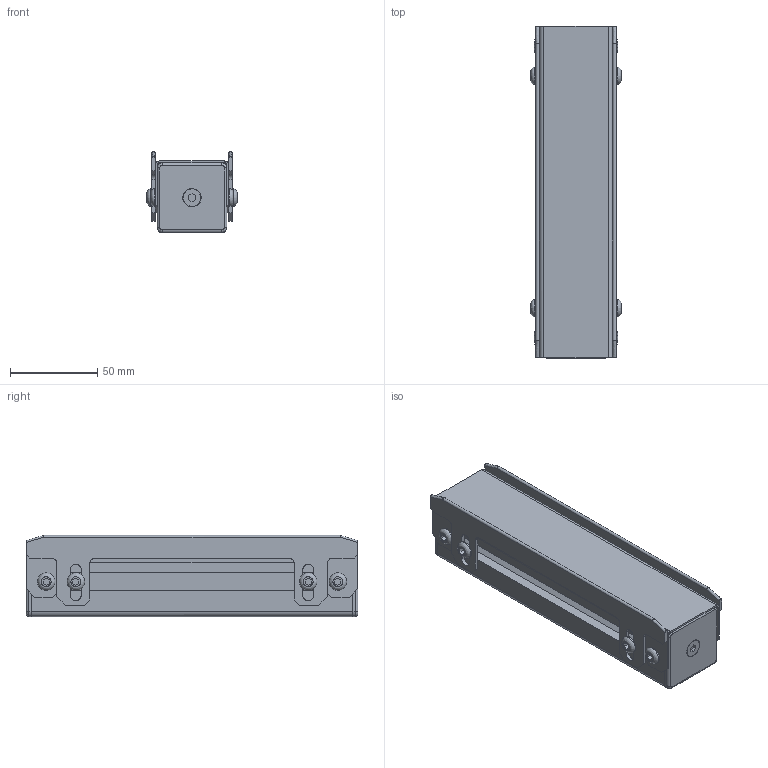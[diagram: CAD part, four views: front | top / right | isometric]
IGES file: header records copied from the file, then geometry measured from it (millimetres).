
Global section: file name: MGSS-FA-4040x190H; native system: unknown; preprocessor: unknown; author: unknown; organization: unknown; date: 20221215.125320; units: millimetre
Bounding box: 51.6 x 190 x 46.5 mm (x, y, z)
Volume: 154396.3 mm3; surface area: 135892.8 mm2
Topology: 16 solids, 16 shells, 352 faces, 936 edges, 618 vertices
Faces by surface type: bspline 352
